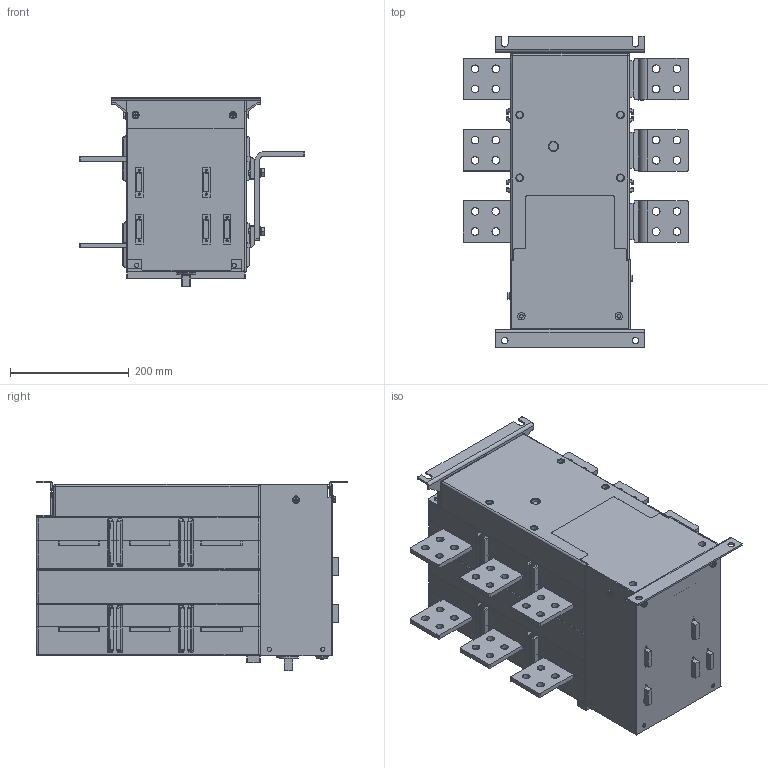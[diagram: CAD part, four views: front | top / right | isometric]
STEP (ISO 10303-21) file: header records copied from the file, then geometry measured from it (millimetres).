
FILE_DESCRIPTION((''),'2;1');
FILE_NAME('NH40-1250-3SZL_2020_11__ASM','2021-04-15T',('zhuanghy'),(''),'PRO/ENGINEER BY PARAMETRIC TECHNOLOGY CORPORATION, 2008380','PRO/ENGINEER BY PARAMETRIC TECHNOLOGY CORPORATION, 2008380','');
FILE_SCHEMA(('CONFIG_CONTROL_DESIGN'));
Length unit declared in the file: millimetre
Products named in the file (59): 3P____-52496_4_1_3_AF0_1; 3P____-51977_2_1_1_1; 3P____-51963_2_1_1_1; 3P_________2_1_1_AF0_1; 3P____-51977_2_1_1_AF0_1; 3P____-52496_4_1_3_AF1_1; 3P____-52041_1_1_1_1; NH40-2000__3P____2019_5_25__AF0_ASM; ANZHUANGJIAO_1_1_1_1_1_1_1_1_1; SHANGBAN_2_1_1_1_1_1_1_1_AF0_1; HENGLIANG_1_1_1_1_1_1_1_1_AF0_1; DIJIAO_1_1_1_1_1_1_4_1_2_1; CEBANLUOSI_1_1_1_1_1_1_1_1_AF0_; CEBANLUOSI_1_1_1_1_1_1_1_1_1; YAOSHI_1_1_1_1_1_1_1_1_AF0_1; HONGZHISHI_1_1_1_1_1_1_2_1__AF0; NH40-2000_3P_2019_5_25__ASM_AF0_ASM; NH40-2000_3P_ASM_1_ASM_1_AF0_AS_ASM; CEBAN-1_1_AF0_1; CEBAN-2_1_AF0_1; CHUTOU-1_5_AF0_5; CHUTOU-1_5_AF1_5; CHUTOU-1_5_AF2_5; CHUTOU-1_5_5; CHUTOU2_2_AF0_1; CHUTOU2_2_AF1_1; CHUTOU2_2_AF2_1; CHUTOU2_2_AF3_1; CHUTOU2_2_AF4_1; CHUTOU2_2_AF5_1; CHUTOU3_2_AF0_2; CHUTOU3_2_AF1_2; CHUTOU3_2_AF2_2; SHUCHUDUANLUOSIM8_1_AF0_1; SHUCHUDUANLUOSIM8_1_AF1_1; SHUCHUDUANLUOSIM8_1_AF2_1; SHUCHUDUANLUOSIM8_1_AF3_1; SHUCHUDUANLUOSIM8_1_AF4_1; SHUCHUDUANLUOSIM8_1_AF5_1; SHUCHUDUANLUOSIM8_1_AF6_1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
Assembly tree (63 placements, depth 7):
  NH40-1250-3SZL_2020_11__ASM
    NH40-1250_3P_ASM_ASM_ASM_1_ASM
      NH40-1600_3P_ASM_ASM_2_AF0_ASM__ASM
        NH40-2000_3P_ASM_1_ASM_1_AF0_AS_ASM
          NH40-2000_3P_2019_5_25__ASM_AF0_ASM
            NH40-2000__3P____2019_5_25__AF0_ASM
              3P____-52496_4_1_3_AF0_1
              3P____-51977_2_1_1_1
              3P____-51963_2_1_1_1
              3P_________2_1_1_AF0_1
              3P____-51977_2_1_1_AF0_1
              3P____-52496_4_1_3_AF1_1
              3P____-52041_1_1_1_1
            ANZHUANGJIAO_1_1_1_1_1_1_1_1_1
            SHANGBAN_2_1_1_1_1_1_1_1_AF0_1
            HENGLIANG_1_1_1_1_1_1_1_1_AF0_1
            DIJIAO_1_1_1_1_1_1_4_1_2_1
            CEBANLUOSI_1_1_1_1_1_1_1_1_AF0_
            CEBANLUOSI_1_1_1_1_1_1_1_1_1  x4
            YAOSHI_1_1_1_1_1_1_1_1_AF0_1
            HONGZHISHI_1_1_1_1_1_1_2_1__AF0
        CEBAN-1_1_AF0_1
        CEBAN-2_1_AF0_1
        CHUTOU-1_5_AF0_5
        CHUTOU-1_5_AF1_5
        CHUTOU-1_5_AF2_5
        CHUTOU-1_5_5  x3
        CHUTOU2_2_AF0_1
        CHUTOU2_2_AF1_1
        CHUTOU2_2_AF2_1
        CHUTOU2_2_AF3_1
        CHUTOU2_2_AF4_1
        CHUTOU2_2_AF5_1
        CHUTOU3_2_AF0_2
        CHUTOU3_2_AF1_2
        CHUTOU3_2_AF2_2
        SHUCHUDUANLUOSIM8_1_AF0_1
        SHUCHUDUANLUOSIM8_1_AF1_1
        SHUCHUDUANLUOSIM8_1_AF2_1
        SHUCHUDUANLUOSIM8_1_AF3_1
        SHUCHUDUANLUOSIM8_1_AF4_1
        SHUCHUDUANLUOSIM8_1_AF5_1
        SHUCHUDUANLUOSIM8_1_AF6_1
        SHUCHUDUANLUOSIM8_1_AF7_1
        SHUCHUDUANLUOSIM8_1_AF8_1
        SHUCHUDUANLUOSIM8_1_AF9_1
        SHUCHUDUANLUOSIM8_1_AF10_1
        SHUCHUDUANLUOSIM8_1_AF11_1
        SHUCHUDUANLUOSIM8_1_AF12_1
        SHUCHUDUANLUOSIM8_1_AF13_1
        SHUCHUDUANLUOSIM8_1_AF14_1
        SHUCHUDUANLUOSIM8_1_AF15_1
        SHUCHUDUANLUOSIM8_1_AF16_1
        SHUCHUDUANLUOSIM8_1_AF17_1
      11_AF0_1
      11_AF1_1
      11_AF2_1
      11_AF3_1
      11_AF4_1
Bounding box: 380.01 x 525.06 x 319.84 mm (x, y, z)
Volume: 22547353.8 mm3; surface area: 2320253.2 mm2
Topology: 58 solids, 66 shells, 3993 faces, 10121 edges, 6514 vertices
Faces by surface type: plane 1960, cylinder 1510, bspline 182, torus 171, extrusion 72, sphere 50, cone 48
Entity records: 133401 total; most frequent: CARTESIAN_POINT 39084, ORIENTED_EDGE 19328, DIRECTION 19259, EDGE_CURVE 9664, AXIS2_PLACEMENT_3D 6746, VERTEX_POINT 6244, VECTOR 5767, LINE 5695
